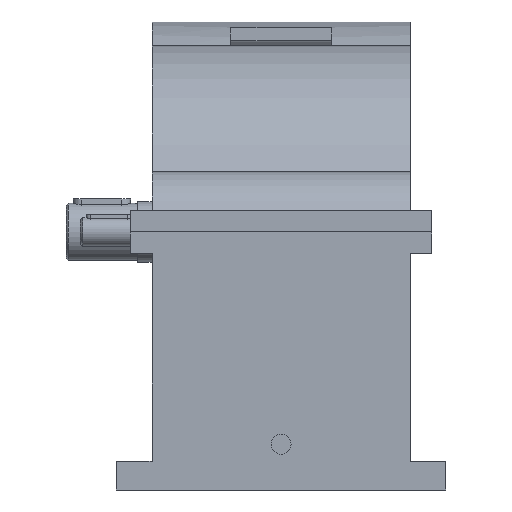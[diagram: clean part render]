
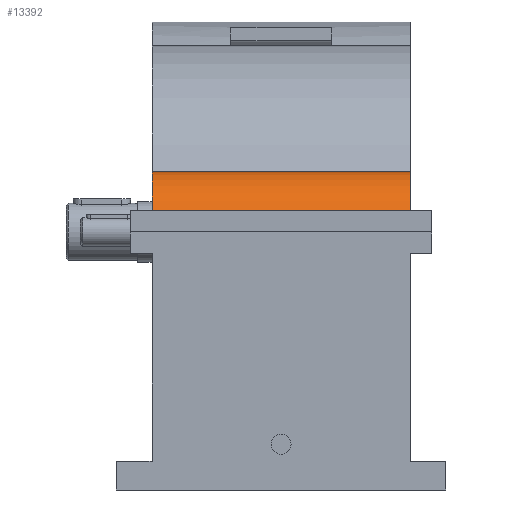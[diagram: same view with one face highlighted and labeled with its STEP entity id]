
A CAD part, left-side view. The second image highlights one B-rep face of the part: STEP entity #13392.
In plain terms, the highlighted cylindrical face has radius 42 mm (diameter 84 mm), a partial arc.
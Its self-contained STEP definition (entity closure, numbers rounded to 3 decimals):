
#7972 = PLANE('',#7973);
#7973 = AXIS2_PLACEMENT_3D('',#7974,#7975,#7976);
#7974 = CARTESIAN_POINT('',(-48.,-105.,175.));
#7975 = DIRECTION('',(0.,0.,1.));
#7976 = DIRECTION('',(1.,0.,-0.));
#8288 = PLANE('',#8289);
#8289 = AXIS2_PLACEMENT_3D('',#8290,#8291,#8292);
#8290 = CARTESIAN_POINT('',(130.,90.,160.));
#8291 = DIRECTION('',(0.,1.,0.));
#8292 = DIRECTION('',(1.,0.,-0.));
#8447 = PLANE('',#8448);
#8448 = AXIS2_PLACEMENT_3D('',#8449,#8450,#8451);
#8449 = CARTESIAN_POINT('',(0.,-90.,160.));
#8450 = DIRECTION('',(0.,1.,0.));
#8451 = DIRECTION('',(1.,0.,-0.));
#11685 = VERTEX_POINT('',#11686);
#11686 = CARTESIAN_POINT('',(-39.23,-90.,175.));
#11707 = EDGE_CURVE('',#11685,#11708,#11710,.T.);
#11708 = VERTEX_POINT('',#11709);
#11709 = CARTESIAN_POINT('',(-39.23,90.,175.));
#11710 = SURFACE_CURVE('',#11711,(#11715,#11721),.PCURVE_S1.);
#11711 = LINE('',#11712,#11713);
#11712 = CARTESIAN_POINT('',(-39.23,-90.,175.));
#11713 = VECTOR('',#11714,1.);
#11714 = DIRECTION('',(0.,1.,0.));
#11715 = PCURVE('',#7972,#11716);
#11716 = DEFINITIONAL_REPRESENTATION('',(#11717),#11720);
#11717 = B_SPLINE_CURVE_WITH_KNOTS('',1,(#11718,#11719),.UNSPECIFIED.,
  .F.,.F.,(2,2),(0.,180.),
  .PIECEWISE_BEZIER_KNOTS.);
#11718 = CARTESIAN_POINT('',(8.77,15.));
#11719 = CARTESIAN_POINT('',(8.77,195.));
#11720 = ( GEOMETRIC_REPRESENTATION_CONTEXT(2) 
PARAMETRIC_REPRESENTATION_CONTEXT() REPRESENTATION_CONTEXT('2D SPACE',''
  ) );
#11721 = PCURVE('',#11722,#11727);
#11722 = CYLINDRICAL_SURFACE('',#11723,42.);
#11723 = AXIS2_PLACEMENT_3D('',#11724,#11725,#11726);
#11724 = CARTESIAN_POINT('',(0.,-90.,160.));
#11725 = DIRECTION('',(0.,1.,0.));
#11726 = DIRECTION('',(1.,0.,-0.));
#11727 = DEFINITIONAL_REPRESENTATION('',(#11728),#11731);
#11728 = B_SPLINE_CURVE_WITH_KNOTS('',1,(#11729,#11730),.UNSPECIFIED.,
  .F.,.F.,(2,2),(0.,180.),
  .PIECEWISE_BEZIER_KNOTS.);
#11729 = CARTESIAN_POINT('',(3.507,0.));
#11730 = CARTESIAN_POINT('',(3.507,180.));
#11731 = ( GEOMETRIC_REPRESENTATION_CONTEXT(2) 
PARAMETRIC_REPRESENTATION_CONTEXT() REPRESENTATION_CONTEXT('2D SPACE',''
  ) );
#11760 = EDGE_CURVE('',#11708,#11761,#11763,.T.);
#11761 = VERTEX_POINT('',#11762);
#11762 = CARTESIAN_POINT('',(6.785,90.,201.448));
#11763 = SURFACE_CURVE('',#11764,(#11769,#11776),.PCURVE_S1.);
#11764 = CIRCLE('',#11765,42.);
#11765 = AXIS2_PLACEMENT_3D('',#11766,#11767,#11768);
#11766 = CARTESIAN_POINT('',(0.,90.,160.));
#11767 = DIRECTION('',(0.,1.,0.));
#11768 = DIRECTION('',(1.,0.,-0.));
#11769 = PCURVE('',#8288,#11770);
#11770 = DEFINITIONAL_REPRESENTATION('',(#11771),#11775);
#11771 = CIRCLE('',#11772,42.);
#11772 = AXIS2_PLACEMENT_2D('',#11773,#11774);
#11773 = CARTESIAN_POINT('',(-130.,0.));
#11774 = DIRECTION('',(1.,0.));
#11775 = ( GEOMETRIC_REPRESENTATION_CONTEXT(2) 
PARAMETRIC_REPRESENTATION_CONTEXT() REPRESENTATION_CONTEXT('2D SPACE',''
  ) );
#11776 = PCURVE('',#11722,#11777);
#11777 = DEFINITIONAL_REPRESENTATION('',(#11778),#11782);
#11778 = LINE('',#11779,#11780);
#11779 = CARTESIAN_POINT('',(0.,180.));
#11780 = VECTOR('',#11781,1.);
#11781 = DIRECTION('',(1.,0.));
#11782 = ( GEOMETRIC_REPRESENTATION_CONTEXT(2) 
PARAMETRIC_REPRESENTATION_CONTEXT() REPRESENTATION_CONTEXT('2D SPACE',''
  ) );
#11805 = CYLINDRICAL_SURFACE('',#11806,130.);
#11806 = AXIS2_PLACEMENT_3D('',#11807,#11808,#11809);
#11807 = CARTESIAN_POINT('',(130.,-90.,160.));
#11808 = DIRECTION('',(0.,1.,0.));
#11809 = DIRECTION('',(1.,0.,-0.));
#12047 = EDGE_CURVE('',#11685,#12048,#12050,.T.);
#12048 = VERTEX_POINT('',#12049);
#12049 = CARTESIAN_POINT('',(6.785,-90.,201.448));
#12050 = SURFACE_CURVE('',#12051,(#12056,#12063),.PCURVE_S1.);
#12051 = CIRCLE('',#12052,42.);
#12052 = AXIS2_PLACEMENT_3D('',#12053,#12054,#12055);
#12053 = CARTESIAN_POINT('',(0.,-90.,160.));
#12054 = DIRECTION('',(0.,1.,0.));
#12055 = DIRECTION('',(1.,0.,-0.));
#12056 = PCURVE('',#8447,#12057);
#12057 = DEFINITIONAL_REPRESENTATION('',(#12058),#12062);
#12058 = CIRCLE('',#12059,42.);
#12059 = AXIS2_PLACEMENT_2D('',#12060,#12061);
#12060 = CARTESIAN_POINT('',(0.,0.));
#12061 = DIRECTION('',(1.,0.));
#12062 = ( GEOMETRIC_REPRESENTATION_CONTEXT(2) 
PARAMETRIC_REPRESENTATION_CONTEXT() REPRESENTATION_CONTEXT('2D SPACE',''
  ) );
#12063 = PCURVE('',#11722,#12064);
#12064 = DEFINITIONAL_REPRESENTATION('',(#12065),#12069);
#12065 = LINE('',#12066,#12067);
#12066 = CARTESIAN_POINT('',(0.,0.));
#12067 = VECTOR('',#12068,1.);
#12068 = DIRECTION('',(1.,0.));
#12069 = ( GEOMETRIC_REPRESENTATION_CONTEXT(2) 
PARAMETRIC_REPRESENTATION_CONTEXT() REPRESENTATION_CONTEXT('2D SPACE',''
  ) );
#13392 = ADVANCED_FACE('',(#13393),#11722,.T.);
#13393 = FACE_BOUND('',#13394,.T.);
#13394 = EDGE_LOOP('',(#13395,#13396,#13397,#13398));
#13395 = ORIENTED_EDGE('',*,*,#11760,.F.);
#13396 = ORIENTED_EDGE('',*,*,#11707,.F.);
#13397 = ORIENTED_EDGE('',*,*,#12047,.T.);
#13398 = ORIENTED_EDGE('',*,*,#13399,.T.);
#13399 = EDGE_CURVE('',#12048,#11761,#13400,.T.);
#13400 = SURFACE_CURVE('',#13401,(#13405,#13411),.PCURVE_S1.);
#13401 = LINE('',#13402,#13403);
#13402 = CARTESIAN_POINT('',(6.785,-90.,201.448));
#13403 = VECTOR('',#13404,1.);
#13404 = DIRECTION('',(0.,1.,0.));
#13405 = PCURVE('',#11722,#13406);
#13406 = DEFINITIONAL_REPRESENTATION('',(#13407),#13410);
#13407 = B_SPLINE_CURVE_WITH_KNOTS('',1,(#13408,#13409),.UNSPECIFIED.,
  .F.,.F.,(2,2),(0.,180.),
  .PIECEWISE_BEZIER_KNOTS.);
#13408 = CARTESIAN_POINT('',(4.875,0.));
#13409 = CARTESIAN_POINT('',(4.875,180.));
#13410 = ( GEOMETRIC_REPRESENTATION_CONTEXT(2) 
PARAMETRIC_REPRESENTATION_CONTEXT() REPRESENTATION_CONTEXT('2D SPACE',''
  ) );
#13411 = PCURVE('',#11805,#13412);
#13412 = DEFINITIONAL_REPRESENTATION('',(#13413),#13416);
#13413 = B_SPLINE_CURVE_WITH_KNOTS('',1,(#13414,#13415),.UNSPECIFIED.,
  .F.,.F.,(2,2),(0.,180.),.PIECEWISE_BEZIER_KNOTS.);
#13414 = CARTESIAN_POINT('',(3.466,0.));
#13415 = CARTESIAN_POINT('',(3.466,180.));
#13416 = ( GEOMETRIC_REPRESENTATION_CONTEXT(2) 
PARAMETRIC_REPRESENTATION_CONTEXT() REPRESENTATION_CONTEXT('2D SPACE',''
  ) );
